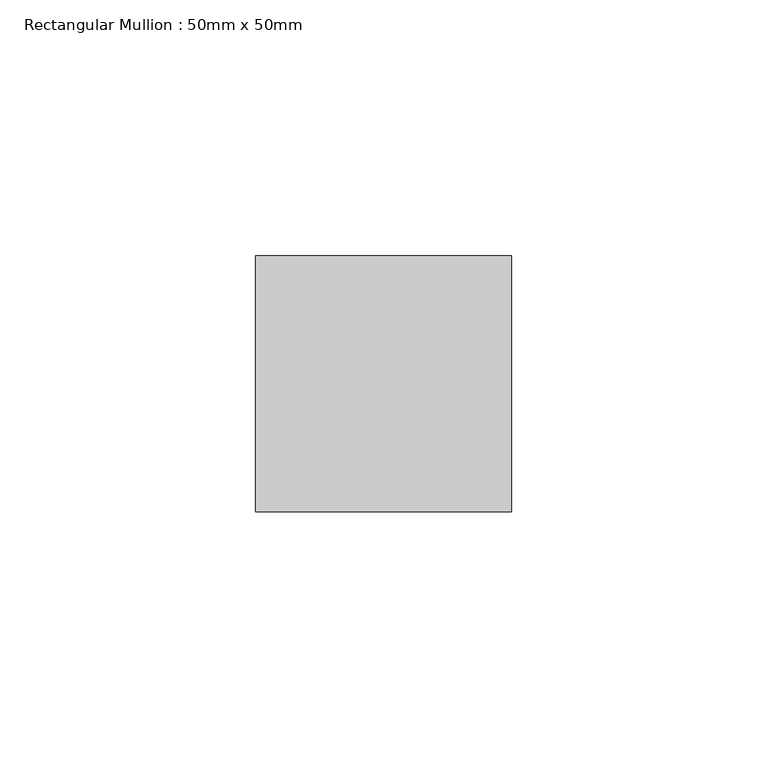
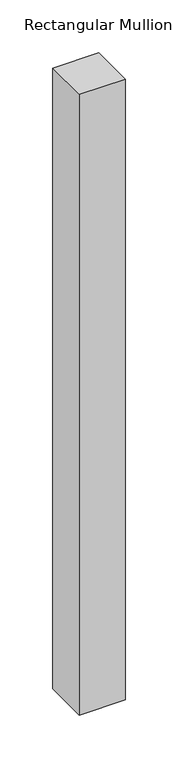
"""IFC4 building model written with IfcOpenShell, lengths in millimetres: member geometry, Rectangular Mullion : 50mm x 50mm."""

from ifc_helpers import new_model, si_unit, frame, origin, place, context, project, spatial, polyline, outline, extrude, source, transform, mapped, element, save


def rectangular_mullion_50mm_x_50mm_76de9a4d(model_context):
    return source(origin(), model_context, "Body", "SweptSolid", [
        extrude(outline(polyline([(0.0, 25.0), (0.0, -25.0), (-50.0, -25.0), (-50.0, 25.0), (0.0, 25.0)])), frame((0.0, 0.0, -717.0945145), z_axis=(0.0, 0.0, 1.0), x_axis=(1.0, 0.0, 0.0)), (0.0, 0.0, 1.0), 717.0945145),
    ])


if __name__ == "__main__":
    model = new_model("IFC4")
    model_context = context("Model", 3, world=origin())
    ifc_project = project(units=[si_unit("LENGTHUNIT", "METRE", prefix="MILLI")], contexts=[model_context])
    site = spatial("IfcSite", under=ifc_project)
    building = spatial("IfcBuilding", under=site)
    placement = place(None, origin())
    rectangular_mullion_50mm_x_50mm_shape = rectangular_mullion_50mm_x_50mm_76de9a4d(model_context)
    element("IfcMember", 1, ObjectType="Rectangular Mullion : 50mm x 50mm", at=placement, inside=building, context=model_context, shape_type="MappedRepresentation", body=[
        mapped(rectangular_mullion_50mm_x_50mm_shape, transform((0.0, 0.0, 0.0), x_axis=(1.0, 0.0, 0.0), y_axis=(0.0, 1.0, 0.0), z_axis=(0.0, 0.0, 1.0))),
    ])
    save(model, "model.ifc")
